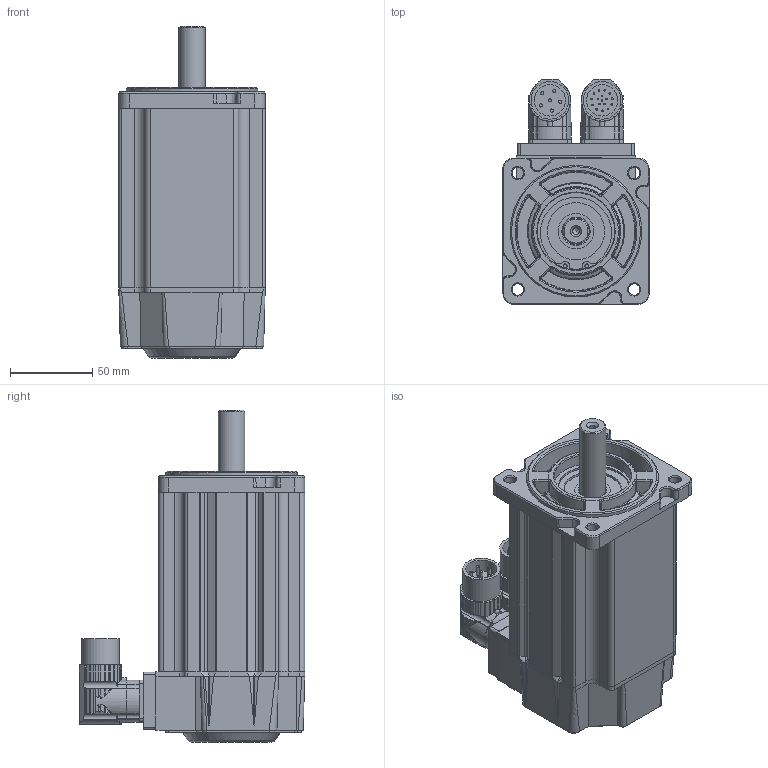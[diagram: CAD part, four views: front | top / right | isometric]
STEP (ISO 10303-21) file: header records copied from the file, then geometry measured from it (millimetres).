
FILE_DESCRIPTION((''),'2;1');
FILE_NAME('C:\CAD_work\Dummy_Modeling_Project_02-12-05\3D MODELS\MPP0921XXX_NPSB.stp','2005-12-20T16:59:13',('jevans'),(''),'Autodesk Inventor 10','Autodesk Inventor 10','');
FILE_SCHEMA(('AUTOMOTIVE_DESIGN { 1 0 10303 214 1 1 1 1 }'));
Length unit declared in the file: inch
Products named in the file (1): MPP092_MOTOR
Bounding box: 88.9 x 137.01 x 201.88 mm (x, y, z)
Volume: 1144176.9 mm3; surface area: 99621 mm2
Topology: 1 solids, 1 shells, 797 faces, 2073 edges, 1309 vertices
Faces by surface type: bspline 302, cylinder 249, plane 211, cone 24, torus 11
Full cylindrical faces by diameter (mm): 1.016 x17, 1.956 x6, 2.362 x2, 15.999 x1, 16.002 x1, 19.05 x1, 19.66 x1, 21.59 x1, 22.86 x1, 34.823 x1, 46.253 x1, 46.761 x1, 47.015 x2, 49.835 x1, 52.324 x1, 74.93 x1, 80 x1
Entity records: 35727 total; most frequent: CARTESIAN_POINT 18205, ORIENTED_EDGE 3998, DIRECTION 3012, EDGE_CURVE 1999, VERTEX_POINT 1299, AXIS2_PLACEMENT_3D 1127, EDGE_LOOP 924, FACE_OUTER_BOUND 797
